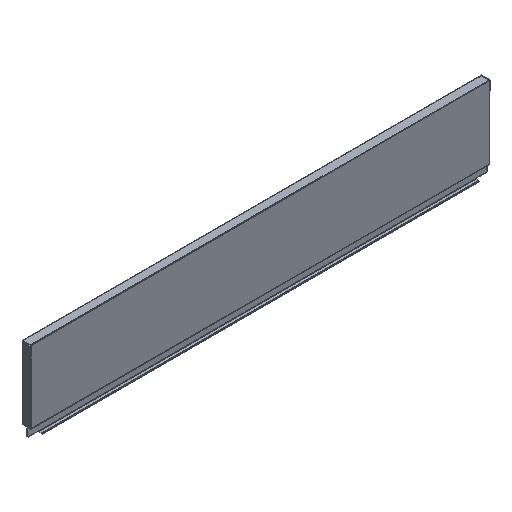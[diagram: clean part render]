
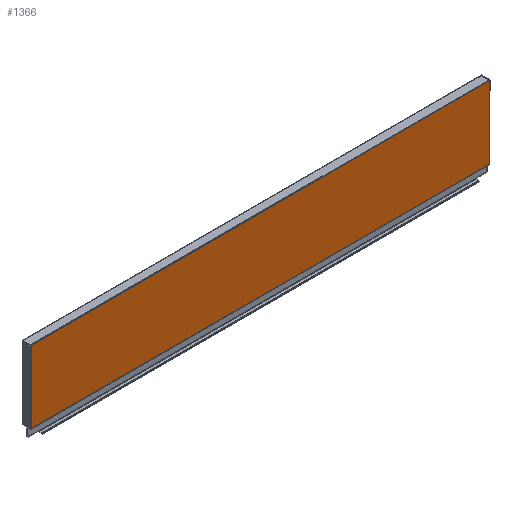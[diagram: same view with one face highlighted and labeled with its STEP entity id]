
A CAD part, isometric view. The second image highlights one B-rep face of the part: STEP entity #1366.
In plain terms, the highlighted planar face has unit normal (0, -1, 0).
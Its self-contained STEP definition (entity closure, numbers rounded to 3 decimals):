
#50 = VERTEX_POINT ( 'NONE', #447 ) ;
#76 = VERTEX_POINT ( 'NONE', #441 ) ;
#96 = DIRECTION ( 'NONE',  ( 1., 0., 0. ) ) ;
#98 = DIRECTION ( 'NONE',  ( 0., -1., 0. ) ) ;
#99 = CARTESIAN_POINT ( 'NONE',  ( -430., -6., 17. ) ) ;
#100 = PLANE ( 'NONE',  #2013 ) ;
#304 = CARTESIAN_POINT ( 'NONE',  ( -429., -6., 151.5 ) ) ;
#306 = CARTESIAN_POINT ( 'NONE',  ( 429., -6., 151.5 ) ) ;
#336 = CARTESIAN_POINT ( 'NONE',  ( 428.5, -6., 17.5 ) ) ;
#338 = CARTESIAN_POINT ( 'NONE',  ( -429., -6., 17.5 ) ) ;
#341 = CARTESIAN_POINT ( 'NONE',  ( 429., -6., 152. ) ) ;
#359 = CARTESIAN_POINT ( 'NONE',  ( -428.5, -6., 17. ) ) ;
#380 = CARTESIAN_POINT ( 'NONE',  ( -429., -6., 152. ) ) ;
#389 = CARTESIAN_POINT ( 'NONE',  ( 428.5, -6., 17. ) ) ;
#441 = CARTESIAN_POINT ( 'NONE',  ( 429., -6., 17.5 ) ) ;
#447 = CARTESIAN_POINT ( 'NONE',  ( -428.5, -6., 17.5 ) ) ;
#455 = VERTEX_POINT ( 'NONE', #389 ) ;
#463 = VERTEX_POINT ( 'NONE', #380 ) ;
#484 = VERTEX_POINT ( 'NONE', #359 ) ;
#518 = VERTEX_POINT ( 'NONE', #341 ) ;
#521 = VERTEX_POINT ( 'NONE', #338 ) ;
#523 = VERTEX_POINT ( 'NONE', #336 ) ;
#547 = VERTEX_POINT ( 'NONE', #306 ) ;
#548 = VERTEX_POINT ( 'NONE', #304 ) ;
#810 = ORIENTED_EDGE ( 'NONE', *, *, #1786, .T. ) ;
#811 = ORIENTED_EDGE ( 'NONE', *, *, #1787, .F. ) ;
#812 = ORIENTED_EDGE ( 'NONE', *, *, #1788, .F. ) ;
#813 = ORIENTED_EDGE ( 'NONE', *, *, #1956, .F. ) ;
#814 = ORIENTED_EDGE ( 'NONE', *, *, #1958, .T. ) ;
#815 = ORIENTED_EDGE ( 'NONE', *, *, #1959, .T. ) ;
#816 = ORIENTED_EDGE ( 'NONE', *, *, #1960, .T. ) ;
#817 = ORIENTED_EDGE ( 'NONE', *, *, #1961, .T. ) ;
#818 = ORIENTED_EDGE ( 'NONE', *, *, #1962, .T. ) ;
#819 = ORIENTED_EDGE ( 'NONE', *, *, #1970, .T. ) ;
#885 = FACE_OUTER_BOUND ( 'NONE', #1533, .T. ) ;
#987 = LINE ( 'NONE', #2216, #988 ) ;
#988 = VECTOR ( 'NONE', #2215, 1000. ) ;
#989 = LINE ( 'NONE', #2210, #990 ) ;
#990 = VECTOR ( 'NONE', #2208, 1000. ) ;
#991 = LINE ( 'NONE', #2203, #992 ) ;
#992 = VECTOR ( 'NONE', #2202, 1000. ) ;
#1287 = LINE ( 'NONE', #2423, #1288 ) ;
#1288 = VECTOR ( 'NONE', #2424, 1000. ) ;
#1289 = LINE ( 'NONE', #2428, #1291 ) ;
#1291 = VECTOR ( 'NONE', #2429, 1000. ) ;
#1292 = LINE ( 'NONE', #2430, #1293 ) ;
#1293 = VECTOR ( 'NONE', #2431, 1000. ) ;
#1294 = LINE ( 'NONE', #2432, #1295 ) ;
#1295 = VECTOR ( 'NONE', #2433, 1000. ) ;
#1296 = LINE ( 'NONE', #2434, #1297 ) ;
#1297 = VECTOR ( 'NONE', #2435, 1000. ) ;
#1298 = LINE ( 'NONE', #2436, #1299 ) ;
#1299 = VECTOR ( 'NONE', #2437, 1000. ) ;
#1311 = LINE ( 'NONE', #2455, #1312 ) ;
#1312 = VECTOR ( 'NONE', #2456, 1000. ) ;
#1366 = ADVANCED_FACE ( 'NONE', ( #885 ), #100, .T. ) ;
#1533 = EDGE_LOOP ( 'NONE', ( #819, #818, #817, #816, #815, #814, #813, #812, #811, #810 ) ) ;
#1786 = EDGE_CURVE ( 'NONE', #463, #548, #987, .T. ) ;
#1787 = EDGE_CURVE ( 'NONE', #463, #518, #989, .T. ) ;
#1788 = EDGE_CURVE ( 'NONE', #518, #547, #991, .T. ) ;
#1956 = EDGE_CURVE ( 'NONE', #547, #76, #1287, .T. ) ;
#1958 = EDGE_CURVE ( 'NONE', #523, #76, #1289, .T. ) ;
#1959 = EDGE_CURVE ( 'NONE', #455, #523, #1292, .T. ) ;
#1960 = EDGE_CURVE ( 'NONE', #484, #455, #1294, .T. ) ;
#1961 = EDGE_CURVE ( 'NONE', #50, #484, #1296, .T. ) ;
#1962 = EDGE_CURVE ( 'NONE', #521, #50, #1298, .T. ) ;
#1970 = EDGE_CURVE ( 'NONE', #548, #521, #1311, .T. ) ;
#2013 = AXIS2_PLACEMENT_3D ( 'NONE', #99, #98, #96 ) ;
#2202 = DIRECTION ( 'NONE',  ( 0., 0., -1. ) ) ;
#2203 = CARTESIAN_POINT ( 'NONE',  ( 429., -6., 170.385 ) ) ;
#2208 = DIRECTION ( 'NONE',  ( 1., 0., 0. ) ) ;
#2210 = CARTESIAN_POINT ( 'NONE',  ( -430., -6., 152. ) ) ;
#2215 = DIRECTION ( 'NONE',  ( 0., 0., -1. ) ) ;
#2216 = CARTESIAN_POINT ( 'NONE',  ( -429., -6., 170.385 ) ) ;
#2423 = CARTESIAN_POINT ( 'NONE',  ( 429., -6., 170.385 ) ) ;
#2424 = DIRECTION ( 'NONE',  ( 0., 0., -1. ) ) ;
#2428 = CARTESIAN_POINT ( 'NONE',  ( 428.5, -6., 17.5 ) ) ;
#2429 = DIRECTION ( 'NONE',  ( 1., 0., 0. ) ) ;
#2430 = CARTESIAN_POINT ( 'NONE',  ( 428.5, -6., 15.3 ) ) ;
#2431 = DIRECTION ( 'NONE',  ( 0., 0., 1. ) ) ;
#2432 = CARTESIAN_POINT ( 'NONE',  ( -430., -6., 17. ) ) ;
#2433 = DIRECTION ( 'NONE',  ( 1., 0., 0. ) ) ;
#2434 = CARTESIAN_POINT ( 'NONE',  ( -428.5, -6., 17.5 ) ) ;
#2435 = DIRECTION ( 'NONE',  ( 0., 0., -1. ) ) ;
#2436 = CARTESIAN_POINT ( 'NONE',  ( -430., -6., 17.5 ) ) ;
#2437 = DIRECTION ( 'NONE',  ( 1., 0., 0. ) ) ;
#2455 = CARTESIAN_POINT ( 'NONE',  ( -429., -6., 170.385 ) ) ;
#2456 = DIRECTION ( 'NONE',  ( 0., 0., -1. ) ) ;
